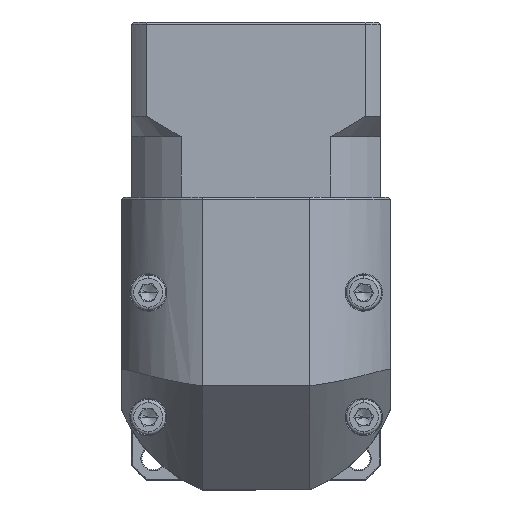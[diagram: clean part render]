
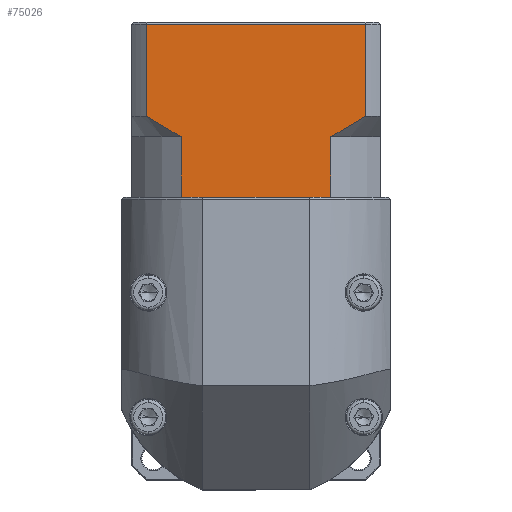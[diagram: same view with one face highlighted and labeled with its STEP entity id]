
A CAD part, top view. The second image highlights one B-rep face of the part: STEP entity #75026.
In plain terms, the highlighted planar face has unit normal (0, 0, 1).
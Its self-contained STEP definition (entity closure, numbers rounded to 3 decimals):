
#948 = VECTOR ( 'NONE', #63264, 1000. ) ;
#1706 = VERTEX_POINT ( 'NONE', #92283 ) ;
#2338 = DIRECTION ( 'NONE',  ( 1., 0., 0. ) ) ;
#2705 = CARTESIAN_POINT ( 'NONE',  ( -93.658, 57.193, 65.811 ) ) ;
#4178 = CARTESIAN_POINT ( 'NONE',  ( -44.174, 72.443, 65.811 ) ) ;
#4260 = CARTESIAN_POINT ( 'NONE',  ( -81.686, 57.193, 65.811 ) ) ;
#6029 = CARTESIAN_POINT ( 'NONE',  ( -45.63, 57.193, 65.811 ) ) ;
#6494 = LINE ( 'NONE', #86904, #97406 ) ;
#11922 = CARTESIAN_POINT ( 'NONE',  ( -90.116, 76.693, 65.811 ) ) ;
#12113 = ORIENTED_EDGE ( 'NONE', *, *, #71113, .T. ) ;
#12854 = EDGE_CURVE ( 'NONE', #1706, #63966, #66294, .T. ) ;
#13114 = LINE ( 'NONE', #2705, #87764 ) ;
#16061 = VECTOR ( 'NONE', #57937, 1000. ) ;
#16832 = VERTEX_POINT ( 'NONE', #6029 ) ;
#17692 = CARTESIAN_POINT ( 'NONE',  ( -45.63, 71.693, 65.811 ) ) ;
#21654 = ORIENTED_EDGE ( 'NONE', *, *, #59807, .F. ) ;
#24080 = LINE ( 'NONE', #89810, #948 ) ;
#26134 = DIRECTION ( 'NONE',  ( 1., 0., 0. ) ) ;
#29949 = ORIENTED_EDGE ( 'NONE', *, *, #82865, .F. ) ;
#30606 = CARTESIAN_POINT ( 'NONE',  ( -93.658, 99.393, 65.811 ) ) ;
#31442 = B_SPLINE_CURVE_WITH_KNOTS ( 'NONE', 3,
 ( #11922, #92276, #74805, #40276, #100653, #64939 ),
 .UNSPECIFIED., .F., .F.,
 ( 4, 2, 4 ),
 ( 0.052, 0.057, 0.062 ),
 .UNSPECIFIED. ) ;
#31854 = ORIENTED_EDGE ( 'NONE', *, *, #35604, .T. ) ;
#32684 = CARTESIAN_POINT ( 'NONE',  ( -90.116, 98.893, 65.811 ) ) ;
#35604 = EDGE_CURVE ( 'NONE', #52024, #93617, #68500, .T. ) ;
#36636 = ORIENTED_EDGE ( 'NONE', *, *, #83163, .T. ) ;
#39231 = CARTESIAN_POINT ( 'NONE',  ( -37.2, 71.693, 65.811 ) ) ;
#40276 = CARTESIAN_POINT ( 'NONE',  ( -84.569, 73.244, 65.811 ) ) ;
#40732 = VERTEX_POINT ( 'NONE', #102108 ) ;
#42005 = FACE_OUTER_BOUND ( 'NONE', #76681, .T. ) ;
#42824 = CARTESIAN_POINT ( 'NONE',  ( -93.658, 57.193, 65.811 ) ) ;
#42943 = LINE ( 'NONE', #65065, #82372 ) ;
#46370 = ORIENTED_EDGE ( 'NONE', *, *, #110661, .T. ) ;
#46945 = DIRECTION ( 'NONE',  ( 0., 0., -1. ) ) ;
#47424 = CARTESIAN_POINT ( 'NONE',  ( -45.63, 71.693, 65.811 ) ) ;
#47668 = PLANE ( 'NONE',  #57995 ) ;
#51842 = DIRECTION ( 'NONE',  ( 0., -1., 0. ) ) ;
#52024 = VERTEX_POINT ( 'NONE', #17692 ) ;
#57675 = CARTESIAN_POINT ( 'NONE',  ( -46.621, 57.193, 65.811 ) ) ;
#57937 = DIRECTION ( 'NONE',  ( 0., 1., 0. ) ) ;
#57995 = AXIS2_PLACEMENT_3D ( 'NONE', #30606, #46945, #91368 ) ;
#59807 = EDGE_CURVE ( 'NONE', #40732, #93617, #78486, .T. ) ;
#60196 = VERTEX_POINT ( 'NONE', #67659 ) ;
#63264 = DIRECTION ( 'NONE',  ( -1., 0., 0. ) ) ;
#63576 = VECTOR ( 'NONE', #26134, 1000. ) ;
#63966 = VERTEX_POINT ( 'NONE', #32684 ) ;
#64939 = CARTESIAN_POINT ( 'NONE',  ( -81.686, 71.693, 65.811 ) ) ;
#65065 = CARTESIAN_POINT ( 'NONE',  ( -93.658, 57.193, 65.811 ) ) ;
#66294 = LINE ( 'NONE', #67484, #16061 ) ;
#67484 = CARTESIAN_POINT ( 'NONE',  ( -90.116, 71.693, 65.811 ) ) ;
#67659 = CARTESIAN_POINT ( 'NONE',  ( -80.695, 57.193, 65.811 ) ) ;
#68500 = B_SPLINE_CURVE_WITH_KNOTS ( 'NONE', 3,
 ( #47424, #4178, #73655, #80503, #80868, #91482 ),
 .UNSPECIFIED., .F., .F.,
 ( 4, 2, 4 ),
 ( 0.1, 0.104, 0.109 ),
 .UNSPECIFIED. ) ;
#69030 = VECTOR ( 'NONE', #108378, 1000. ) ;
#71113 = EDGE_CURVE ( 'NONE', #40732, #63966, #24080, .T. ) ;
#73655 = CARTESIAN_POINT ( 'NONE',  ( -42.748, 73.243, 65.811 ) ) ;
#74805 = CARTESIAN_POINT ( 'NONE',  ( -87.377, 74.92, 65.811 ) ) ;
#75026 = ADVANCED_FACE ( 'NONE', ( #42005 ), #47668, .F. ) ;
#76418 = LINE ( 'NONE', #103925, #110411 ) ;
#76681 = EDGE_LOOP ( 'NONE', ( #21654, #12113, #78876, #96434, #29949, #84417, #36636, #46370, #98328, #31854 ) ) ;
#78131 = VERTEX_POINT ( 'NONE', #87406 ) ;
#78187 = CARTESIAN_POINT ( 'NONE',  ( -37.2, 76.693, 65.811 ) ) ;
#78486 = LINE ( 'NONE', #39231, #69030 ) ;
#78876 = ORIENTED_EDGE ( 'NONE', *, *, #12854, .F. ) ;
#78938 = DIRECTION ( 'NONE',  ( 0., 1., 0. ) ) ;
#80503 = CARTESIAN_POINT ( 'NONE',  ( -39.943, 74.918, 65.811 ) ) ;
#80868 = CARTESIAN_POINT ( 'NONE',  ( -38.563, 75.791, 65.811 ) ) ;
#82372 = VECTOR ( 'NONE', #90909, 1000. ) ;
#82865 = EDGE_CURVE ( 'NONE', #89447, #78131, #6494, .T. ) ;
#83163 = EDGE_CURVE ( 'NONE', #60196, #104107, #42943, .T. ) ;
#84417 = ORIENTED_EDGE ( 'NONE', *, *, #97767, .T. ) ;
#86904 = CARTESIAN_POINT ( 'NONE',  ( -81.686, 71.693, 65.811 ) ) ;
#87406 = CARTESIAN_POINT ( 'NONE',  ( -81.686, 71.693, 65.811 ) ) ;
#87764 = VECTOR ( 'NONE', #2338, 1000. ) ;
#89447 = VERTEX_POINT ( 'NONE', #4260 ) ;
#89810 = CARTESIAN_POINT ( 'NONE',  ( -93.658, 98.893, 65.811 ) ) ;
#90909 = DIRECTION ( 'NONE',  ( 1., 0., 0. ) ) ;
#91177 = EDGE_CURVE ( 'NONE', #1706, #78131, #31442, .T. ) ;
#91368 = DIRECTION ( 'NONE',  ( 0., 1., 0. ) ) ;
#91482 = CARTESIAN_POINT ( 'NONE',  ( -37.2, 76.693, 65.811 ) ) ;
#92276 = CARTESIAN_POINT ( 'NONE',  ( -88.756, 75.793, 65.811 ) ) ;
#92283 = CARTESIAN_POINT ( 'NONE',  ( -90.116, 76.693, 65.811 ) ) ;
#93617 = VERTEX_POINT ( 'NONE', #78187 ) ;
#94856 = LINE ( 'NONE', #42824, #63576 ) ;
#96434 = ORIENTED_EDGE ( 'NONE', *, *, #91177, .T. ) ;
#97406 = VECTOR ( 'NONE', #78938, 1000. ) ;
#97767 = EDGE_CURVE ( 'NONE', #89447, #60196, #13114, .T. ) ;
#98328 = ORIENTED_EDGE ( 'NONE', *, *, #103018, .F. ) ;
#100653 = CARTESIAN_POINT ( 'NONE',  ( -83.138, 72.441, 65.811 ) ) ;
#102108 = CARTESIAN_POINT ( 'NONE',  ( -37.2, 98.893, 65.811 ) ) ;
#103018 = EDGE_CURVE ( 'NONE', #52024, #16832, #76418, .T. ) ;
#103925 = CARTESIAN_POINT ( 'NONE',  ( -45.63, 71.693, 65.811 ) ) ;
#104107 = VERTEX_POINT ( 'NONE', #57675 ) ;
#108378 = DIRECTION ( 'NONE',  ( 0., -1., 0. ) ) ;
#110411 = VECTOR ( 'NONE', #51842, 1000. ) ;
#110661 = EDGE_CURVE ( 'NONE', #104107, #16832, #94856, .T. ) ;
